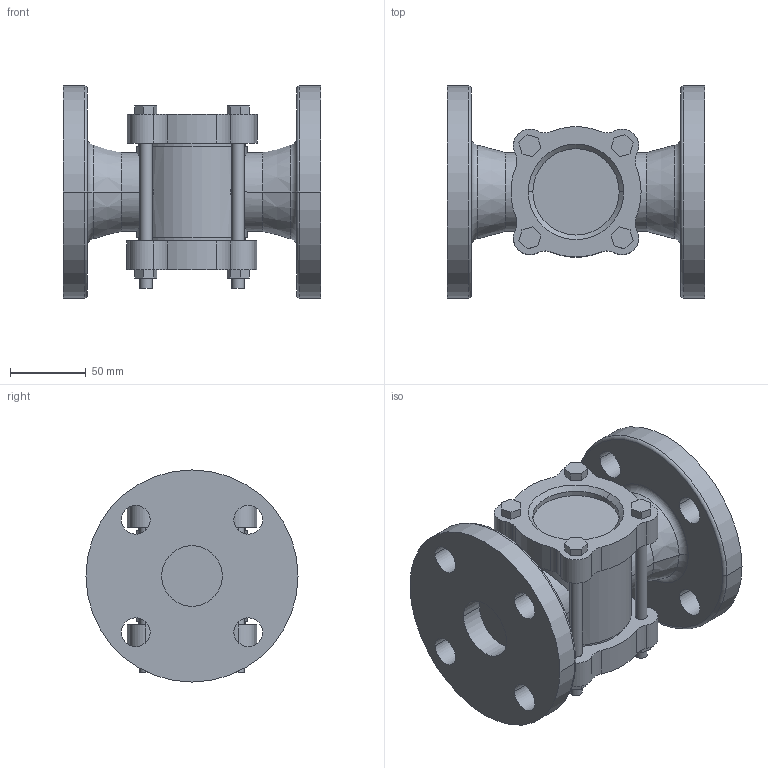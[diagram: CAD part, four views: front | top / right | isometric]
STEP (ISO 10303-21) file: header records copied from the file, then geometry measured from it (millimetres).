
FILE_DESCRIPTION (( 'STEP AP203' ), '1' );
FILE_NAME ('SF-1F 40A.STEP', '2024-09-06T01:14:49', ( '' ), ( '' ), 'SwSTEP 2.0', 'SolidWorks 2024', '' );
FILE_SCHEMA (( 'CONFIG_CONTROL_DESIGN' ));
Length unit declared in the file: millimetre
Products named in the file (1): SF-1F 40A
Bounding box: 170 x 140 x 140 mm (x, y, z)
Volume: 1099071.9 mm3; surface area: 140765.5 mm2
Topology: 1 solids, 1 shells, 186 faces, 470 edges, 308 vertices
Faces by surface type: cylinder 96, plane 74, torus 8, cone 8
Entity records: 6027 total; most frequent: CARTESIAN_POINT 1225, DIRECTION 1048, ORIENTED_EDGE 940, EDGE_CURVE 470, AXIS2_PLACEMENT_3D 399, VERTEX_POINT 308, LINE 250, VECTOR 250
